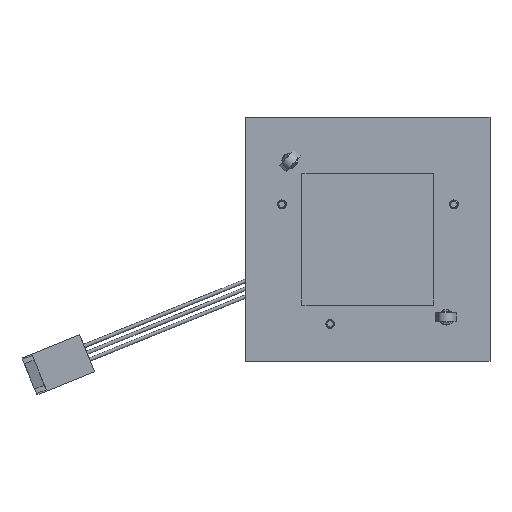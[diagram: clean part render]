
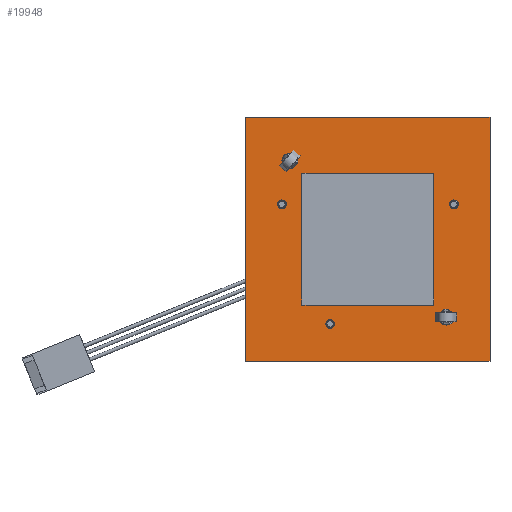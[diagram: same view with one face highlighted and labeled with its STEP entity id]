
A CAD part, front view. The second image highlights one B-rep face of the part: STEP entity #19948.
In plain terms, the highlighted planar face has unit normal (0, -1, 0).
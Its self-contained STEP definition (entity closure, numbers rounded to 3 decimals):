
#272 = FACE_BOUND ( 'NONE', #3524, .T. ) ;
#645 = FACE_BOUND ( 'NONE', #29290, .T. ) ;
#1098 = DIRECTION ( 'NONE',  ( 0., 1., 0. ) ) ;
#1558 = ORIENTED_EDGE ( 'NONE', *, *, #19719, .T. ) ;
#1903 = CIRCLE ( 'NONE', #55750, 0.9 ) ;
#2779 = VERTEX_POINT ( 'NONE', #62273 ) ;
#2830 = DIRECTION ( 'NONE',  ( 0., -1., 0. ) ) ;
#3524 = EDGE_LOOP ( 'NONE', ( #13804, #70099 ) ) ;
#3673 = AXIS2_PLACEMENT_3D ( 'NONE', #69647, #1098, #30482 ) ;
#3794 = CIRCLE ( 'NONE', #44726, 1.6 ) ;
#3985 = DIRECTION ( 'NONE',  ( 1., 0., 0. ) ) ;
#4082 = DIRECTION ( 'NONE',  ( 0., -1., 0. ) ) ;
#5553 = DIRECTION ( 'NONE',  ( 0., 1., 0. ) ) ;
#5765 = EDGE_CURVE ( 'NONE', #38857, #28537, #41778, .T. ) ;
#5903 = CIRCLE ( 'NONE', #40977, 0.9 ) ;
#6648 = DIRECTION ( 'NONE',  ( 0., 0., -1. ) ) ;
#9313 = CARTESIAN_POINT ( 'NONE',  ( -25., 0.5, 25. ) ) ;
#9708 = ORIENTED_EDGE ( 'NONE', *, *, #59398, .F. ) ;
#9783 = EDGE_CURVE ( 'NONE', #28089, #29877, #11996, .T. ) ;
#10085 = DIRECTION ( 'NONE',  ( 0., 1., 0. ) ) ;
#10091 = VERTEX_POINT ( 'NONE', #17076 ) ;
#10383 = DIRECTION ( 'NONE',  ( 0., 0., -1. ) ) ;
#10592 = CARTESIAN_POINT ( 'NONE',  ( 16.001, 0.5, -16.001 ) ) ;
#11010 = DIRECTION ( 'NONE',  ( 0., 0., -1. ) ) ;
#11996 = CIRCLE ( 'NONE', #3673, 0.9 ) ;
#12724 = CIRCLE ( 'NONE', #52503, 0.9 ) ;
#13657 = VERTEX_POINT ( 'NONE', #9313 ) ;
#13728 = VERTEX_POINT ( 'NONE', #41865 ) ;
#13804 = ORIENTED_EDGE ( 'NONE', *, *, #70876, .T. ) ;
#14402 = CARTESIAN_POINT ( 'NONE',  ( 17.616, 0.5, 6.218 ) ) ;
#14522 = DIRECTION ( 'NONE',  ( 0., 0., -1. ) ) ;
#15460 = DIRECTION ( 'NONE',  ( 0., 0., -1. ) ) ;
#16870 = FACE_BOUND ( 'NONE', #66528, .T. ) ;
#17076 = CARTESIAN_POINT ( 'NONE',  ( -25., 0.5, -25. ) ) ;
#17877 = AXIS2_PLACEMENT_3D ( 'NONE', #33703, #61178, #11010 ) ;
#18839 = VERTEX_POINT ( 'NONE', #53690 ) ;
#19316 = ORIENTED_EDGE ( 'NONE', *, *, #32734, .T. ) ;
#19719 = EDGE_CURVE ( 'NONE', #2779, #13657, #33785, .T. ) ;
#19723 = CARTESIAN_POINT ( 'NONE',  ( -17.616, 0.5, 7.118 ) ) ;
#19948 = ADVANCED_FACE ( 'NONE', ( #50853, #62263, #16870, #272, #645, #28215 ), #38800, .T. ) ;
#20349 = AXIS2_PLACEMENT_3D ( 'NONE', #10592, #27467, #66939 ) ;
#20881 = EDGE_CURVE ( 'NONE', #46658, #13728, #58838, .T. ) ;
#21095 = EDGE_LOOP ( 'NONE', ( #9708, #48850 ) ) ;
#21486 = CARTESIAN_POINT ( 'NONE',  ( 25., 0.5, -25. ) ) ;
#21830 = VERTEX_POINT ( 'NONE', #14402 ) ;
#22445 = CARTESIAN_POINT ( 'NONE',  ( 25., 0.5, 25. ) ) ;
#22669 = EDGE_CURVE ( 'NONE', #28537, #38857, #12724, .T. ) ;
#24822 = EDGE_LOOP ( 'NONE', ( #19316, #1558, #34943, #39651 ) ) ;
#25162 = CARTESIAN_POINT ( 'NONE',  ( -25., 0.5, -25. ) ) ;
#25503 = DIRECTION ( 'NONE',  ( 0., -1., 0. ) ) ;
#26077 = CARTESIAN_POINT ( 'NONE',  ( 25., 0.5, -25. ) ) ;
#26544 = CARTESIAN_POINT ( 'NONE',  ( -16.002, 0.5, 16.002 ) ) ;
#26985 = DIRECTION ( 'NONE',  ( 0., 0., 1. ) ) ;
#27467 = DIRECTION ( 'NONE',  ( 0., -1., 0. ) ) ;
#27729 = EDGE_CURVE ( 'NONE', #10091, #38720, #54224, .T. ) ;
#28089 = VERTEX_POINT ( 'NONE', #37652 ) ;
#28215 = FACE_OUTER_BOUND ( 'NONE', #24822, .T. ) ;
#28537 = VERTEX_POINT ( 'NONE', #47604 ) ;
#29290 = EDGE_LOOP ( 'NONE', ( #39435, #45183 ) ) ;
#29877 = VERTEX_POINT ( 'NONE', #71292 ) ;
#30482 = DIRECTION ( 'NONE',  ( 0., 0., -1. ) ) ;
#30775 = DIRECTION ( 'NONE',  ( 0., 0., -1. ) ) ;
#31601 = VERTEX_POINT ( 'NONE', #33769 ) ;
#32734 = EDGE_CURVE ( 'NONE', #38720, #2779, #49247, .T. ) ;
#33703 = CARTESIAN_POINT ( 'NONE',  ( 0., 0.5, 0. ) ) ;
#33769 = CARTESIAN_POINT ( 'NONE',  ( -16.002, 0.5, 14.402 ) ) ;
#33785 = LINE ( 'NONE', #22445, #37693 ) ;
#34776 = ORIENTED_EDGE ( 'NONE', *, *, #66283, .T. ) ;
#34943 = ORIENTED_EDGE ( 'NONE', *, *, #52113, .T. ) ;
#36816 = DIRECTION ( 'NONE',  ( 0., 0., -1. ) ) ;
#37145 = CARTESIAN_POINT ( 'NONE',  ( -16.002, 0.5, 16.002 ) ) ;
#37325 = VECTOR ( 'NONE', #3985, 1000. ) ;
#37339 = EDGE_LOOP ( 'NONE', ( #61522, #62437 ) ) ;
#37389 = EDGE_CURVE ( 'NONE', #13728, #46658, #37863, .T. ) ;
#37652 = CARTESIAN_POINT ( 'NONE',  ( -17.616, 0.5, 8.018 ) ) ;
#37693 = VECTOR ( 'NONE', #44666, 1000. ) ;
#37863 = CIRCLE ( 'NONE', #20349, 1.6 ) ;
#38226 = CARTESIAN_POINT ( 'NONE',  ( -7.728, 0.5, -18.257 ) ) ;
#38720 = VERTEX_POINT ( 'NONE', #47367 ) ;
#38744 = EDGE_CURVE ( 'NONE', #31601, #63596, #47378, .T. ) ;
#38800 = PLANE ( 'NONE',  #17877 ) ;
#38831 = DIRECTION ( 'NONE',  ( 0., 1., 0. ) ) ;
#38857 = VERTEX_POINT ( 'NONE', #38226 ) ;
#39435 = ORIENTED_EDGE ( 'NONE', *, *, #5765, .T. ) ;
#39651 = ORIENTED_EDGE ( 'NONE', *, *, #27729, .T. ) ;
#40977 = AXIS2_PLACEMENT_3D ( 'NONE', #49582, #10085, #70527 ) ;
#41778 = CIRCLE ( 'NONE', #44123, 0.9 ) ;
#41865 = CARTESIAN_POINT ( 'NONE',  ( 16.001, 0.5, -17.601 ) ) ;
#41952 = DIRECTION ( 'NONE',  ( 0., 0., -1. ) ) ;
#42011 = VECTOR ( 'NONE', #26985, 1000. ) ;
#42401 = EDGE_CURVE ( 'NONE', #18839, #21830, #5903, .T. ) ;
#44123 = AXIS2_PLACEMENT_3D ( 'NONE', #51002, #5553, #6648 ) ;
#44512 = CIRCLE ( 'NONE', #57458, 0.9 ) ;
#44666 = DIRECTION ( 'NONE',  ( -1., 0., 0. ) ) ;
#44726 = AXIS2_PLACEMENT_3D ( 'NONE', #26544, #4082, #10383 ) ;
#45183 = ORIENTED_EDGE ( 'NONE', *, *, #22669, .T. ) ;
#46160 = AXIS2_PLACEMENT_3D ( 'NONE', #37145, #25503, #14522 ) ;
#46658 = VERTEX_POINT ( 'NONE', #65718 ) ;
#47367 = CARTESIAN_POINT ( 'NONE',  ( 25., 0.5, -25. ) ) ;
#47378 = CIRCLE ( 'NONE', #46160, 1.6 ) ;
#47604 = CARTESIAN_POINT ( 'NONE',  ( -7.728, 0.5, -16.457 ) ) ;
#47772 = VECTOR ( 'NONE', #36816, 1000. ) ;
#48850 = ORIENTED_EDGE ( 'NONE', *, *, #38744, .F. ) ;
#48914 = CARTESIAN_POINT ( 'NONE',  ( -7.728, 0.5, -17.357 ) ) ;
#49247 = LINE ( 'NONE', #21486, #42011 ) ;
#49582 = CARTESIAN_POINT ( 'NONE',  ( 17.616, 0.5, 7.118 ) ) ;
#50853 = FACE_BOUND ( 'NONE', #37339, .T. ) ;
#51002 = CARTESIAN_POINT ( 'NONE',  ( -7.728, 0.5, -17.357 ) ) ;
#51799 = AXIS2_PLACEMENT_3D ( 'NONE', #58562, #2830, #30775 ) ;
#52113 = EDGE_CURVE ( 'NONE', #13657, #10091, #70158, .T. ) ;
#52503 = AXIS2_PLACEMENT_3D ( 'NONE', #48914, #60360, #55545 ) ;
#52728 = CARTESIAN_POINT ( 'NONE',  ( -16.002, 0.5, 17.602 ) ) ;
#53690 = CARTESIAN_POINT ( 'NONE',  ( 17.616, 0.5, 8.018 ) ) ;
#54224 = LINE ( 'NONE', #26077, #37325 ) ;
#55545 = DIRECTION ( 'NONE',  ( 0., 0., -1. ) ) ;
#55750 = AXIS2_PLACEMENT_3D ( 'NONE', #19723, #57427, #41952 ) ;
#57358 = ORIENTED_EDGE ( 'NONE', *, *, #9783, .T. ) ;
#57427 = DIRECTION ( 'NONE',  ( 0., 1., 0. ) ) ;
#57458 = AXIS2_PLACEMENT_3D ( 'NONE', #72548, #38831, #15460 ) ;
#58562 = CARTESIAN_POINT ( 'NONE',  ( 16.001, 0.5, -16.001 ) ) ;
#58838 = CIRCLE ( 'NONE', #51799, 1.6 ) ;
#59398 = EDGE_CURVE ( 'NONE', #63596, #31601, #3794, .T. ) ;
#60360 = DIRECTION ( 'NONE',  ( 0., 1., 0. ) ) ;
#61178 = DIRECTION ( 'NONE',  ( 0., -1., 0. ) ) ;
#61522 = ORIENTED_EDGE ( 'NONE', *, *, #20881, .F. ) ;
#62263 = FACE_BOUND ( 'NONE', #21095, .T. ) ;
#62273 = CARTESIAN_POINT ( 'NONE',  ( 25., 0.5, 25. ) ) ;
#62437 = ORIENTED_EDGE ( 'NONE', *, *, #37389, .F. ) ;
#63596 = VERTEX_POINT ( 'NONE', #52728 ) ;
#65718 = CARTESIAN_POINT ( 'NONE',  ( 16.001, 0.5, -14.401 ) ) ;
#66283 = EDGE_CURVE ( 'NONE', #29877, #28089, #1903, .T. ) ;
#66528 = EDGE_LOOP ( 'NONE', ( #34776, #57358 ) ) ;
#66939 = DIRECTION ( 'NONE',  ( 0., 0., -1. ) ) ;
#69647 = CARTESIAN_POINT ( 'NONE',  ( -17.616, 0.5, 7.118 ) ) ;
#70099 = ORIENTED_EDGE ( 'NONE', *, *, #42401, .T. ) ;
#70158 = LINE ( 'NONE', #25162, #47772 ) ;
#70527 = DIRECTION ( 'NONE',  ( 0., 0., -1. ) ) ;
#70876 = EDGE_CURVE ( 'NONE', #21830, #18839, #44512, .T. ) ;
#71292 = CARTESIAN_POINT ( 'NONE',  ( -17.616, 0.5, 6.218 ) ) ;
#72548 = CARTESIAN_POINT ( 'NONE',  ( 17.616, 0.5, 7.118 ) ) ;
